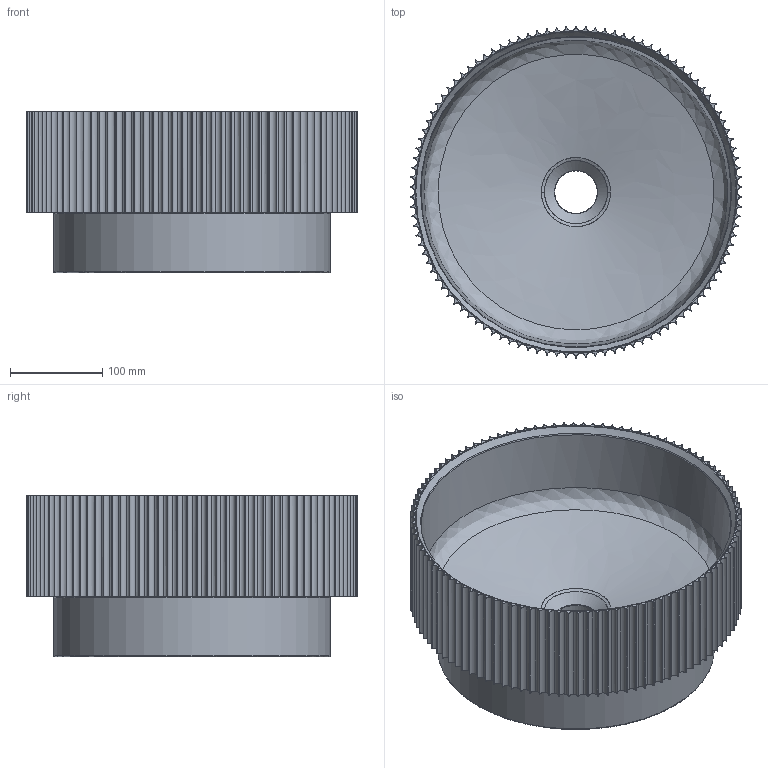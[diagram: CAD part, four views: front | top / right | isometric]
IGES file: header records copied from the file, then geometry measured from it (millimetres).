
Global section: file name: C:\Users\hp\Desktop\00624_Mappi\00624_Mappi.igs; native system: Rhinoceros ( Sep 10 2024 ); preprocessor: Trout Lake IGES 012 Sep 10 2024; date: 241016.082751; units: millimetre
Bounding box: 359.86 x 360 x 175 mm (x, y, z)
Surface area: 721846.8 mm2 (no closed solid volume)
Topology: 0 solids, 0 shells, 352 faces, 2016 edges, 1984 vertices
Faces by surface type: bspline 352
